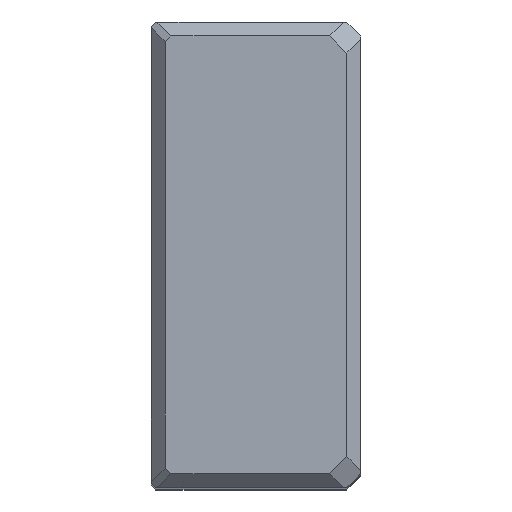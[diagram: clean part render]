
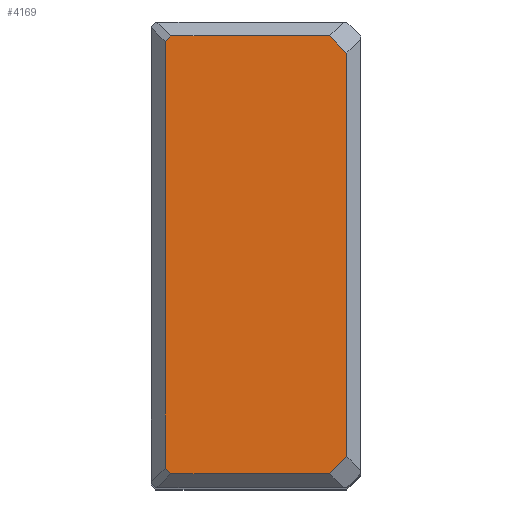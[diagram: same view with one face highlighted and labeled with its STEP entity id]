
A CAD part, top view. The second image highlights one B-rep face of the part: STEP entity #4169.
In plain terms, the highlighted planar face has unit normal (0, 0, 1).
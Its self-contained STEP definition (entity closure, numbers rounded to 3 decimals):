
#95=VERTEX_POINT(' ',#96);
#96=CARTESIAN_POINT('',(-3.,-43.326,0.));
#97=VERTEX_POINT(' ',#98);
#98=CARTESIAN_POINT('',(-6.674,-47.,0.));
#127=VERTEX_POINT(' ',#128);
#128=CARTESIAN_POINT('',(-3.,43.326,0.));
#135=VERTEX_POINT(' ',#136);
#136=CARTESIAN_POINT('',(-6.674,47.,0.));
#161=VERTEX_POINT(' ',#162);
#162=CARTESIAN_POINT('',(-40.775,-47.,0.));
#169=VERTEX_POINT(' ',#170);
#170=CARTESIAN_POINT('',(-42.,-45.775,0.));
#189=VERTEX_POINT(' ',#190);
#190=CARTESIAN_POINT('',(-42.,45.775,0.));
#193=VERTEX_POINT(' ',#194);
#194=CARTESIAN_POINT('',(-40.775,47.,0.));
#816=LINE('',#817,#818);
#817=CARTESIAN_POINT('',(20.163,-20.163,0.));
#818=VECTOR('',#819,1.);
#819=DIRECTION('',(0.707,0.707,0.));
#820=EDGE_CURVE(' ',#95,#97,#816,.F.);
#946=LINE('',#947,#948);
#947=CARTESIAN_POINT('',(-3.,-50.12,0.));
#948=VECTOR('',#949,1.);
#949=DIRECTION('',(0.,1.,0.));
#950=EDGE_CURVE(' ',#95,#127,#946,.T.);
#971=LINE('',#972,#973);
#972=CARTESIAN_POINT('',(20.163,20.163,0.));
#973=VECTOR('',#974,1.);
#974=DIRECTION('',(-0.707,0.707,0.));
#975=EDGE_CURVE(' ',#135,#127,#971,.F.);
#1116=LINE('',#1117,#1118);
#1117=CARTESIAN_POINT('',(-45.12,-47.,0.));
#1118=VECTOR('',#1119,1.);
#1119=DIRECTION('',(1.,0.,0.));
#1120=EDGE_CURVE(' ',#161,#97,#1116,.T.);
#1131=LINE('',#1132,#1133);
#1132=CARTESIAN_POINT('',(-43.888,-43.888,0.));
#1133=VECTOR('',#1134,1.);
#1134=DIRECTION('',(0.707,-0.707,0.));
#1135=EDGE_CURVE(' ',#161,#169,#1131,.F.);
#1228=LINE('',#1229,#1230);
#1229=CARTESIAN_POINT('',(-42.,-50.12,0.));
#1230=VECTOR('',#1231,1.);
#1231=DIRECTION('',(0.,1.,0.));
#1232=EDGE_CURVE(' ',#169,#189,#1228,.T.);
#1233=LINE('',#1234,#1235);
#1234=CARTESIAN_POINT('',(-43.888,43.888,0.));
#1235=VECTOR('',#1236,1.);
#1236=DIRECTION('',(-0.707,-0.707,0.));
#1237=EDGE_CURVE(' ',#189,#193,#1233,.F.);
#1238=LINE('',#1239,#1240);
#1239=CARTESIAN_POINT('',(-45.12,47.,0.));
#1240=VECTOR('',#1241,1.);
#1241=DIRECTION('',(1.,0.,0.));
#1242=EDGE_CURVE(' ',#135,#193,#1238,.F.);
#4154=ORIENTED_EDGE('',*,*,#1237,.F.);
#4155=ORIENTED_EDGE('',*,*,#1232,.F.);
#4156=ORIENTED_EDGE('',*,*,#1135,.F.);
#4157=ORIENTED_EDGE('',*,*,#1120,.T.);
#4158=ORIENTED_EDGE('',*,*,#820,.F.);
#4159=ORIENTED_EDGE('',*,*,#950,.T.);
#4160=ORIENTED_EDGE('',*,*,#975,.F.);
#4161=ORIENTED_EDGE('',*,*,#1242,.T.);
#4162=EDGE_LOOP('',(#4154,#4155,#4156,#4157,#4158,#4159,#4160,#4161));
#4163=FACE_OUTER_BOUND('',#4162,.T.);
#4164=PLANE('',#4165);
#4165=AXIS2_PLACEMENT_3D('',#4166,#4167,#4168);
#4166=CARTESIAN_POINT('',(-42.,0.,0.));
#4167=DIRECTION('',(0.,0.,1.));
#4168=DIRECTION('',(1.,0.,0.));
#4169=ADVANCED_FACE('',(#4163),#4164,.T.);
